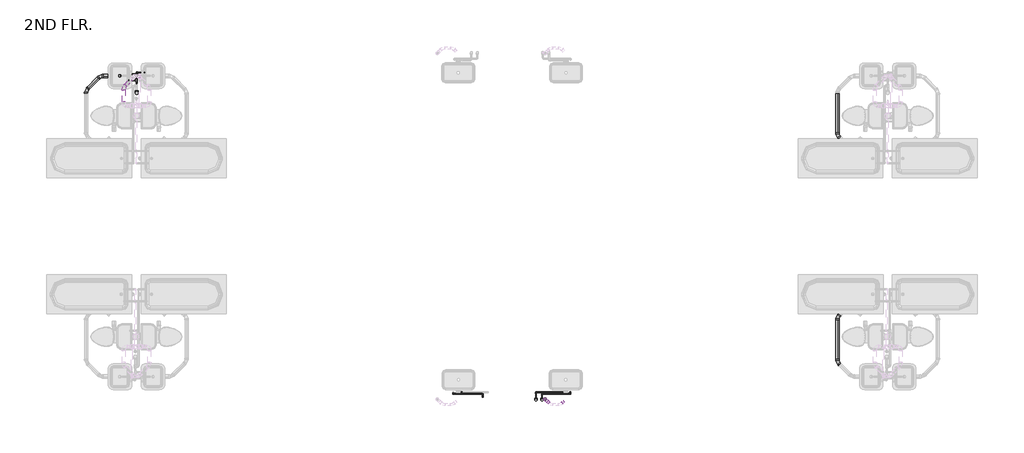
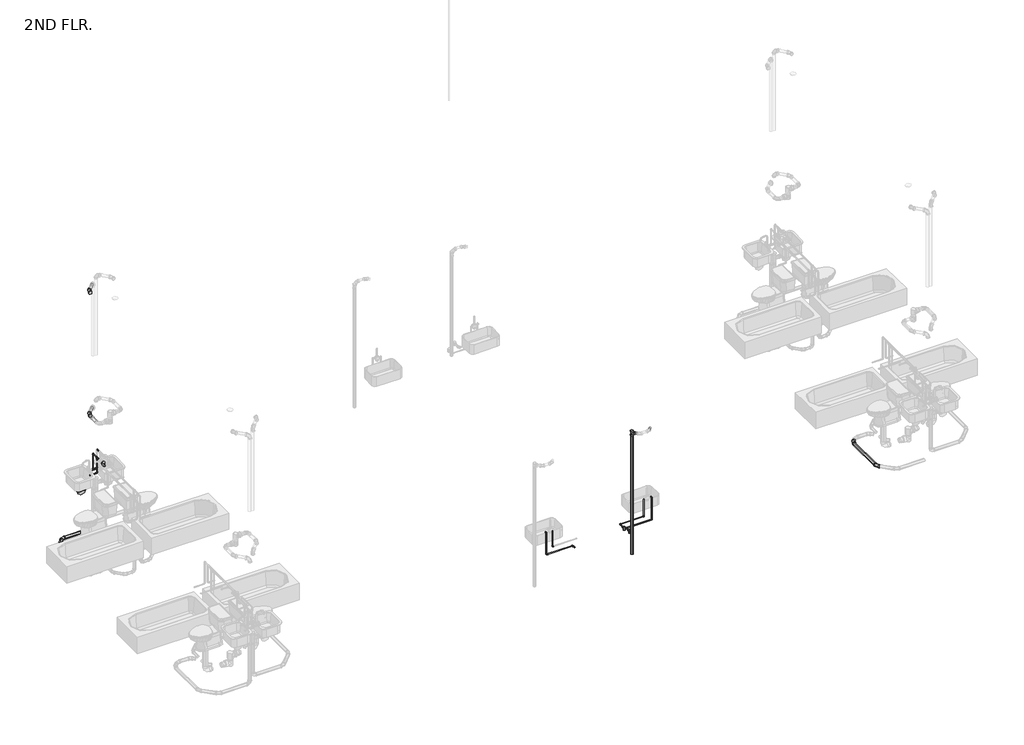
# One storey, part 7 of 15: 32 pipe segments, 29 pipe fittings.
"""IFC4 building model written with IfcOpenShell, lengths in millimetres."""

from ifc_helpers import new_model, si_unit, point, frame, frame_2d, origin, place, context, project, spatial, circle_curve, trimmed, segment, composite_curve, outline, extrude, transform, mapped, element, save
from components import bend_pvc_sch_40_dwv_standard_f2f5988a, bend_pvc_sch_40_dwv_standard_f64d1520, pipe_elbow_copper_k_aad62f2d, pipe_elbow_copper_k_4cfe590c, pipe_elbow_copper_k_69a8f9be, pipe_tee_copper_k_36278b8a, pipe_tee_copper_k_ee363fbf, pipe_tee_copper_k_60c871d1, pipe_transition_copper_k_859ff352, pipe_transition_copper_k_4b29cc47, standard_8c31f35f, tee_sanitary_pvc_sch_40_dwv_standard_31acfb72

model = new_model("IFC4")

# Units and contexts
model_context = context("Model", 3, world=origin())
ifc_project = project(units=[si_unit("LENGTHUNIT", "METRE", prefix="MILLI")], contexts=[model_context])

# Site, building, storey
site = spatial("IfcSite", under=ifc_project)
building = spatial("IfcBuilding", under=site)
storey = spatial("IfcBuildingStorey", under=building, Name="2ND FLR.", Elevation=2844.8)

# Pipe fittings
placement = place(None, origin())
bend_pvc_sch_40_dwv_standard_shape = bend_pvc_sch_40_dwv_standard_f2f5988a(model_context)
element("IfcPipeFitting", 1, ObjectType="Bend - PVC - Sch 40 - DWV : Standard", at=placement, inside=storey, context=model_context, shape_type="MappedRepresentation", body=[
    mapped(bend_pvc_sch_40_dwv_standard_shape, transform((15951.6578096, 2815.0447905, 2303.4969926), x_axis=(0.0, -1.0, 0.0), y_axis=(0.9999999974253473, 0.0, -7.175866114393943e-05), z_axis=(7.175866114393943e-05, 0.0, 0.9999999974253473))),
])
element("IfcPipeFitting", 2, ObjectType="Bend - PVC - Sch 40 - DWV : Standard", at=placement, inside=storey, context=model_context, shape_type="MappedRepresentation", body=[
    mapped(bend_pvc_sch_40_dwv_standard_shape, transform((15951.6578096, 3711.4802538, 2303.4969926), x_axis=(-0.707106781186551, -0.707106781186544, 0.0), y_axis=(0.707106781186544, -0.707106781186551, 0.0), z_axis=(0.0, 0.0, 1.0))),
])
bend_pvc_sch_40_dwv_standard_2_shape = bend_pvc_sch_40_dwv_standard_f64d1520(model_context)
element("IfcPipeFitting", 3, ObjectType="Bend - PVC - Sch 40 - DWV : Standard", at=placement, inside=storey, context=model_context, shape_type="MappedRepresentation", body=[
    mapped(bend_pvc_sch_40_dwv_standard_2_shape, transform((1407.2763671, 8465.2975466, 2291.20951), x_axis=(0.707106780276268, 0.7071067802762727, 5.0741035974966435e-05), y_axis=(-0.7071067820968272, 0.7071067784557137, 5.074103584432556e-05), z_axis=(0.0, -7.17586611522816e-05, 0.9999999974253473))),
])
element("IfcPipeFitting", 4, ObjectType="Bend - PVC - Sch 40 - DWV : Standard", at=placement, inside=storey, context=model_context, shape_type="MappedRepresentation", body=[
    mapped(bend_pvc_sch_40_dwv_standard_2_shape, transform((1127.6578381, 8185.6790175, 2291.1952447), x_axis=(0.0, 1.0, 0.0), y_axis=(-0.9999999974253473, 0.0, 7.175866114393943e-05), z_axis=(7.175866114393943e-05, 0.0, 0.9999999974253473))),
])
element("IfcPipeFitting", 5, ObjectType="Bend - PVC - Sch 40 - DWV : Standard", at=placement, inside=storey, context=model_context, shape_type="MappedRepresentation", body=[
    mapped(bend_pvc_sch_40_dwv_standard_2_shape, transform((1864.3084875, 8244.2717925, 7975.5957104), x_axis=(0.0, 0.9999999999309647, -1.1750347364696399e-05), y_axis=(-0.9999999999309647, 1.3807066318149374e-10, 1.175034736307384e-05), z_axis=(1.1750347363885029e-05, 1.175034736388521e-05, 0.9999999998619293))),
])
element("IfcPipeFitting", 6, ObjectType="Bend - PVC - Sch 40 - DWV : Standard", at=placement, inside=storey, context=model_context, shape_type="MappedRepresentation", body=[
    mapped(bend_pvc_sch_40_dwv_standard_2_shape, transform((1864.3084875, 8244.2717925, 5130.7957104), x_axis=(0.0, 0.9999999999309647, -1.1750347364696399e-05), y_axis=(-0.9999999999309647, 1.3807066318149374e-10, 1.175034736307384e-05), z_axis=(1.1750347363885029e-05, 1.175034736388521e-05, 0.9999999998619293))),
])
element("IfcPipeFitting", 7, ObjectType="Bend - PVC - Sch 40 - DWV : Standard", at=placement, inside=storey, context=model_context, shape_type="MappedRepresentation", body=[
    mapped(bend_pvc_sch_40_dwv_standard_2_shape, transform((15951.6578381, 7289.5723223, 2291.1952447), x_axis=(-0.707106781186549, 0.707106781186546, 0.0), y_axis=(-0.707106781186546, -0.707106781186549, 0.0), z_axis=(0.0, 0.0, 1.0))),
])
pipe_elbow_copper_k_shape = pipe_elbow_copper_k_aad62f2d(model_context)
element("IfcPipeFitting", 8, ObjectType="Pipe Elbow : Copper- K", at=placement, inside=storey, context=model_context, shape_type="MappedRepresentation", body=[
    mapped(pipe_elbow_copper_k_shape, transform((2121.4834875, 8536.03262, 3962.4), x_axis=(0.0, 1.0, 0.0), y_axis=(0.0, 0.0, -1.0), z_axis=(-1.0, 0.0, 0.0))),
])
element("IfcPipeFitting", 9, ObjectType="Pipe Elbow : Copper- K", at=placement, inside=storey, context=model_context, shape_type="MappedRepresentation", body=[
    mapped(pipe_elbow_copper_k_shape, transform((2121.4834875, 8536.03262, 3606.8), x_axis=(0.0, 0.0, -1.0), y_axis=(1.0, 0.0, 0.0), z_axis=(0.0, -1.0, 0.0))),
])
element("IfcPipeFitting", 10, ObjectType="Pipe Elbow : Copper- K", at=placement, inside=storey, context=model_context, shape_type="MappedRepresentation", body=[
    mapped(pipe_elbow_copper_k_shape, transform((2121.4834875, 8383.3740436, 3606.8), x_axis=(0.0, 0.0, -1.0), y_axis=(-1.0, 0.0, 0.0), z_axis=(0.0, 1.0, 0.0))),
])
element("IfcPipeFitting", 11, ObjectType="Pipe Elbow : Copper- K", at=placement, inside=storey, context=model_context, shape_type="MappedRepresentation", body=[
    mapped(pipe_elbow_copper_k_shape, transform((8954.4391516, 2195.725865, 3281.6601562), x_axis=(0.0, 0.9999994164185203, 0.0010803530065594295), y_axis=(-1.0, 0.0, 0.0), z_axis=(0.0, -0.0010803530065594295, 0.9999994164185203))),
])
element("IfcPipeFitting", 12, ObjectType="Pipe Elbow : Copper- K", at=placement, inside=storey, context=model_context, shape_type="MappedRepresentation", body=[
    mapped(pipe_elbow_copper_k_shape, transform((8370.2391516, 2195.725865, 3281.6601562), x_axis=(-1.0, 0.0, 0.0), y_axis=(0.0, 0.0, 1.0), z_axis=(0.0, 1.0, 0.0))),
])
element("IfcPipeFitting", 13, ObjectType="Pipe Elbow : Copper- K", at=placement, inside=storey, context=model_context, shape_type="MappedRepresentation", body=[
    mapped(pipe_elbow_copper_k_shape, transform((8370.2391516, 2195.725865, 3789.6601562), x_axis=(0.0, 0.0, 1.0), y_axis=(0.0, 1.0, 0.0), z_axis=(-1.0, 0.0, 0.0))),
])
element("IfcPipeFitting", 14, ObjectType="Pipe Elbow : Copper- K", at=placement, inside=storey, context=model_context, shape_type="MappedRepresentation", body=[
    mapped(pipe_elbow_copper_k_shape, transform((10121.3413377, 2195.725865, 3281.6601562), x_axis=(-1.0, 0.0, 0.0), y_axis=(0.0, -1.0, 0.0), z_axis=(0.0, 0.0, 1.0))),
])
element("IfcPipeFitting", 15, ObjectType="Pipe Elbow : Copper- K", at=placement, inside=storey, context=model_context, shape_type="MappedRepresentation", body=[
    mapped(pipe_elbow_copper_k_shape, transform((10681.01717, 2195.725865, 3281.6601562), x_axis=(0.0, 0.0, -1.0), y_axis=(-1.0, 0.0, 0.0), z_axis=(0.0, 1.0, 0.0))),
])
element("IfcPipeFitting", 16, ObjectType="Pipe Elbow : Copper- K", at=placement, inside=storey, context=model_context, shape_type="MappedRepresentation", body=[
    mapped(pipe_elbow_copper_k_shape, transform((10002.1891516, 2227.8137881, 3393.47591), x_axis=(-0.9999999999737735, 0.0, -7.242448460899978e-06), y_axis=(0.0, -1.0000000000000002, 0.0), z_axis=(-7.242448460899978e-06, 0.0, 0.9999999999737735))),
])
pipe_elbow_copper_k_2_shape = pipe_elbow_copper_k_4cfe590c(model_context)
element("IfcPipeFitting", 17, ObjectType="Pipe Elbow : Copper- K", at=placement, inside=storey, context=model_context, shape_type="MappedRepresentation", body=[
    mapped(pipe_elbow_copper_k_2_shape, transform((8527.4913377, 2227.8137881, 3393.4796875), x_axis=(-0.9999999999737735, 0.0, 7.242448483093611e-06), y_axis=(7.242448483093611e-06, 0.0, 0.9999999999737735), z_axis=(0.0, 1.0, 0.0))),
])
element("IfcPipeFitting", 18, ObjectType="Pipe Elbow : Copper- K", at=placement, inside=storey, context=model_context, shape_type="MappedRepresentation", body=[
    mapped(pipe_elbow_copper_k_2_shape, transform((10523.7649839, 2227.8137881, 3393.4796875), x_axis=(0.0, 0.0, -1.0), y_axis=(-1.0, 0.0, 0.0), z_axis=(0.0, 1.0, 0.0))),
])
pipe_elbow_copper_k_3_shape = pipe_elbow_copper_k_69a8f9be(model_context)
element("IfcPipeFitting", 19, ObjectType="Pipe Elbow : Copper- K", at=placement, inside=storey, context=model_context, shape_type="MappedRepresentation", body=[
    mapped(pipe_elbow_copper_k_3_shape, transform((10681.01717, 2195.725865, 3789.6601562), x_axis=(0.0, 0.0, 1.0), y_axis=(0.0, -1.0, 0.0), z_axis=(1.0, 0.0, 0.0))),
])
pipe_tee_copper_k_shape = pipe_tee_copper_k_36278b8a(model_context)
element("IfcPipeFitting", 20, ObjectType="Pipe Tee : Copper- K", at=placement, inside=storey, context=model_context, shape_type="MappedRepresentation", body=[
    mapped(pipe_tee_copper_k_shape, transform((2121.4834875, 8129.4757881, 3962.4), x_axis=(0.0, 0.0, 1.0), y_axis=(0.0, -1.0, 0.0), z_axis=(1.0, 0.0, 0.0))),
])
pipe_tee_copper_k_2_shape = pipe_tee_copper_k_ee363fbf(model_context)
element("IfcPipeFitting", 21, ObjectType="Pipe Tee : Copper- K", at=placement, inside=storey, context=model_context, shape_type="MappedRepresentation", body=[
    mapped(pipe_tee_copper_k_2_shape, transform((2121.4834875, 8383.3740436, 3962.4), x_axis=(0.0, -1.0, 0.0), y_axis=(0.0, 0.0, 1.0), z_axis=(-1.0, 0.0, 0.0))),
])
pipe_tee_copper_k_3_shape = pipe_tee_copper_k_60c871d1(model_context)
element("IfcPipeFitting", 22, ObjectType="Pipe Tee : Copper- K", at=placement, inside=storey, context=model_context, shape_type="MappedRepresentation", body=[
    mapped(pipe_tee_copper_k_3_shape, transform((10121.3413377, 2071.7561808, 3281.6601562), x_axis=(0.0, 0.0, 1.0), y_axis=(0.0, -1.0, 0.0), z_axis=(1.0, 0.0, 0.0))),
])
element("IfcPipeFitting", 23, ObjectType="Pipe Tee : Copper- K", at=placement, inside=storey, context=model_context, shape_type="MappedRepresentation", body=[
    mapped(pipe_tee_copper_k_3_shape, transform((10002.1891516, 2071.7561808, 3393.47591), x_axis=(0.0, 0.0, 1.0), y_axis=(0.0, -1.0, 0.0), z_axis=(1.0, 0.0, 0.0))),
])
pipe_transition_copper_k_shape = pipe_transition_copper_k_859ff352(model_context)
element("IfcPipeFitting", 24, ObjectType="Pipe Transition : Copper- K", at=placement, inside=storey, context=model_context, shape_type="MappedRepresentation", body=[
    mapped(pipe_transition_copper_k_shape, transform((2121.4834875, 8383.3740436, 3935.4125), x_axis=(0.0, 0.0, -1.0), y_axis=(0.0, -1.0, 0.0), z_axis=(-1.0, 0.0, 0.0))),
])
element("IfcPipeFitting", 25, ObjectType="Pipe Transition : Copper- K", at=placement, inside=storey, context=model_context, shape_type="MappedRepresentation", body=[
    mapped(pipe_transition_copper_k_shape, transform((2121.4834875, 8410.3615436, 3962.4), x_axis=(0.0, 1.0, 0.0), y_axis=(-1.0, 0.0, 0.0), z_axis=(0.0, 0.0, 1.0))),
])
pipe_transition_copper_k_2_shape = pipe_transition_copper_k_4b29cc47(model_context)
element("IfcPipeFitting", 26, ObjectType="Pipe Transition : Copper- K", at=placement, inside=storey, context=model_context, shape_type="MappedRepresentation", body=[
    mapped(pipe_transition_copper_k_2_shape, transform((10121.3413377, 2105.0936808, 3281.6601562), x_axis=(0.0, 1.0, 0.0), y_axis=(-1.0, 0.0, 0.0), z_axis=(0.0, 0.0, 1.0))),
])
element("IfcPipeFitting", 27, ObjectType="Pipe Transition : Copper- K", at=placement, inside=storey, context=model_context, shape_type="MappedRepresentation", body=[
    mapped(pipe_transition_copper_k_2_shape, transform((10002.1891516, 2105.0936808, 3393.47591), x_axis=(0.0, 1.0, 0.0), y_axis=(-1.0, 0.0, 0.0), z_axis=(0.0, 0.0, 1.0))),
])
standard_shape = standard_8c31f35f(model_context)
element("IfcPipeFitting", 28, ObjectType="GES P TRAP PVC Sch 40 - DWV : Standard", at=placement, inside=storey, context=model_context, shape_type="MappedRepresentation", body=[
    mapped(standard_shape, transform((1765.3699643, 8465.2710421, 3322.6721683), x_axis=(0.0, 0.0, -1.0), y_axis=(-1.0, 0.0, 0.0), z_axis=(0.0, 1.0, 0.0))),
])
tee_sanitary_pvc_sch_40_dwv_standard_shape = tee_sanitary_pvc_sch_40_dwv_standard_31acfb72(model_context)
element("IfcPipeFitting", 29, ObjectType="Tee Sanitary - PVC - Sch 40 - DWV : Standard", at=placement, inside=storey, context=model_context, shape_type="MappedRepresentation", body=[
    mapped(tee_sanitary_pvc_sch_40_dwv_standard_shape, transform((10182.4361988, 2088.8641446, 5532.1998234), x_axis=(0.0, 0.0, 1.0), y_axis=(0.7098586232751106, -0.7043441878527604, 0.0), z_axis=(0.7043441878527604, 0.7098586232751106, 0.0))),
])

# Pipe segments
element("IfcPipeSegment", 30, ObjectType="Copper", at=placement, inside=storey, context=model_context, shape_type="SweptSolid", body=[
    extrude(outline(composite_curve([segment(trimmed(circle_curve(frame_2d((3962.4, 2121.4834875)), 7.9375), [point((3962.4, 2129.4209875))], [point((3970.3375, 2121.4834875))], False, "CARTESIAN"), True, "CONTINUOUS"), segment(trimmed(circle_curve(frame_2d((3962.4, 2121.4834875)), 7.9375), [point((3970.3375, 2121.4834875))], [point((3962.4, 2113.5459875))], False, "CARTESIAN"), True, "CONTINUOUS"), segment(trimmed(circle_curve(frame_2d((3962.4, 2121.4834875)), 7.9375), [point((3962.4, 2113.5459875))], [point((3954.4625, 2121.4834875))], False, "CARTESIAN"), True, "CONTINUOUS"), segment(trimmed(circle_curve(frame_2d((3962.4, 2121.4834875)), 7.9375), [point((3954.4625, 2121.4834875))], [point((3962.4, 2129.4209875))], False, "CARTESIAN"), True, "CONTINUOUS")], self_intersect=False)), frame((0.0, 8415.9177936, 0.0), z_axis=(0.0, 1.0, 0.0), x_axis=(0.0, 0.0, 1.0)), (0.0, 0.0, 1.0), 102.6523264),
])
element("IfcPipeSegment", 31, ObjectType="Copper", at=placement, inside=storey, context=model_context, shape_type="SweptSolid", body=[
    extrude(outline(composite_curve([segment(trimmed(circle_curve(frame_2d((8536.03262, 3606.8)), 7.9375), [point((8528.09512, 3606.8))], [point((8536.03262, 3614.7375))], False, "CARTESIAN"), True, "CONTINUOUS"), segment(trimmed(circle_curve(frame_2d((8536.03262, 3606.8)), 7.9375), [point((8536.03262, 3614.7375))], [point((8543.97012, 3606.8))], False, "CARTESIAN"), True, "CONTINUOUS"), segment(trimmed(circle_curve(frame_2d((8536.03262, 3606.8)), 7.9375), [point((8543.97012, 3606.8))], [point((8536.03262, 3598.8625))], False, "CARTESIAN"), True, "CONTINUOUS"), segment(trimmed(circle_curve(frame_2d((8536.03262, 3606.8)), 7.9375), [point((8536.03262, 3598.8625))], [point((8528.09512, 3606.8))], False, "CARTESIAN"), True, "CONTINUOUS")], self_intersect=False)), frame((2138.9459875, 0.0, 0.0), z_axis=(1.0, 0.0, 0.0), x_axis=(0.0, 1.0, 0.0)), (0.0, 0.0, 1.0), 141.2875),
])
element("IfcPipeSegment", 32, ObjectType="Copper", at=placement, inside=storey, context=model_context, shape_type="SweptSolid", body=[
    extrude(outline(composite_curve([segment(trimmed(circle_curve(frame_2d((2121.4834875, 8536.03262)), 7.9375), [point((2129.4209875, 8536.03262))], [point((2121.4834875, 8528.09512))], False, "CARTESIAN"), True, "CONTINUOUS"), segment(trimmed(circle_curve(frame_2d((2121.4834875, 8536.03262)), 7.9375), [point((2121.4834875, 8528.09512))], [point((2113.5459875, 8536.03262))], False, "CARTESIAN"), True, "CONTINUOUS"), segment(trimmed(circle_curve(frame_2d((2121.4834875, 8536.03262)), 7.9375), [point((2113.5459875, 8536.03262))], [point((2121.4834875, 8543.97012))], False, "CARTESIAN"), True, "CONTINUOUS"), segment(trimmed(circle_curve(frame_2d((2121.4834875, 8536.03262)), 7.9375), [point((2121.4834875, 8543.97012))], [point((2129.4209875, 8536.03262))], False, "CARTESIAN"), True, "CONTINUOUS")], self_intersect=False)), frame((0.0, 0.0, 3624.2625), z_axis=(0.0, 0.0, 1.0), x_axis=(1.0, 0.0, 0.0)), (0.0, 0.0, 1.0), 320.675),
])
element("IfcPipeSegment", 33, ObjectType="Copper", at=placement, inside=storey, context=model_context, shape_type="SweptSolid", body=[
    extrude(outline(composite_curve([segment(trimmed(circle_curve(frame_2d((8383.3740436, 3606.8)), 7.9375), [point((8391.3115436, 3606.8))], [point((8383.3740436, 3598.8625))], False, "CARTESIAN"), True, "CONTINUOUS"), segment(trimmed(circle_curve(frame_2d((8383.3740436, 3606.8)), 7.9375), [point((8383.3740436, 3598.8625))], [point((8375.4365436, 3606.8))], False, "CARTESIAN"), True, "CONTINUOUS"), segment(trimmed(circle_curve(frame_2d((8383.3740436, 3606.8)), 7.9375), [point((8375.4365436, 3606.8))], [point((8383.3740436, 3614.7375))], False, "CARTESIAN"), True, "CONTINUOUS"), segment(trimmed(circle_curve(frame_2d((8383.3740436, 3606.8)), 7.9375), [point((8383.3740436, 3614.7375))], [point((8391.3115436, 3606.8))], False, "CARTESIAN"), True, "CONTINUOUS")], self_intersect=False)), frame((1967.4959875, 0.0, 0.0), z_axis=(1.0, 0.0, 0.0), x_axis=(0.0, 1.0, 0.0)), (0.0, 0.0, 1.0), 136.525),
])
element("IfcPipeSegment", 34, ObjectType="Copper", at=placement, inside=storey, context=model_context, shape_type="SweptSolid", body=[
    extrude(outline(composite_curve([segment(trimmed(circle_curve(frame_2d((2121.4834875, 8383.3740436)), 7.9375), [point((2129.4209875, 8383.3740436))], [point((2121.4834875, 8375.4365436))], False, "CARTESIAN"), True, "CONTINUOUS"), segment(trimmed(circle_curve(frame_2d((2121.4834875, 8383.3740436)), 7.9375), [point((2121.4834875, 8375.4365436))], [point((2113.5459875, 8383.3740436))], False, "CARTESIAN"), True, "CONTINUOUS"), segment(trimmed(circle_curve(frame_2d((2121.4834875, 8383.3740436)), 7.9375), [point((2113.5459875, 8383.3740436))], [point((2121.4834875, 8391.3115436))], False, "CARTESIAN"), True, "CONTINUOUS"), segment(trimmed(circle_curve(frame_2d((2121.4834875, 8383.3740436)), 7.9375), [point((2121.4834875, 8391.3115436))], [point((2129.4209875, 8383.3740436))], False, "CARTESIAN"), True, "CONTINUOUS")], self_intersect=False)), frame((0.0, 0.0, 3624.2625), z_axis=(0.0, 0.0, 1.0), x_axis=(1.0, 0.0, 0.0)), (0.0, 0.0, 1.0), 305.59375),
])
element("IfcPipeSegment", 35, ObjectType="Copper", at=placement, inside=storey, context=model_context, shape_type="SweptSolid", body=[
    extrude(outline(composite_curve([segment(trimmed(circle_curve(frame_2d((3962.4, 2121.4834875)), 11.1125), [point((3962.4, 2132.5959875))], [point((3973.5125, 2121.4834875))], False, "CARTESIAN"), True, "CONTINUOUS"), segment(trimmed(circle_curve(frame_2d((3962.4, 2121.4834875)), 11.1125), [point((3973.5125, 2121.4834875))], [point((3962.4, 2110.3709875))], False, "CARTESIAN"), True, "CONTINUOUS"), segment(trimmed(circle_curve(frame_2d((3962.4, 2121.4834875)), 11.1125), [point((3962.4, 2110.3709875))], [point((3951.2875, 2121.4834875))], False, "CARTESIAN"), True, "CONTINUOUS"), segment(trimmed(circle_curve(frame_2d((3962.4, 2121.4834875)), 11.1125), [point((3951.2875, 2121.4834875))], [point((3962.4, 2132.5959875))], False, "CARTESIAN"), True, "CONTINUOUS")], self_intersect=False)), frame((0.0, 8308.4155408, 0.0), z_axis=(0.0, 1.0, 0.0), x_axis=(0.0, 0.0, 1.0)), (0.0, 0.0, 1.0), 47.9710027),
])
element("IfcPipeSegment", 36, ObjectType="Copper", at=placement, inside=storey, context=model_context, shape_type="SweptSolid", body=[
    extrude(outline(composite_curve([segment(trimmed(circle_curve(frame_2d((4064.0, 2186.5709875)), 7.9375), [point((4064.0, 2194.5084875))], [point((4071.9375, 2186.5709875))], False, "CARTESIAN"), True, "CONTINUOUS"), segment(trimmed(circle_curve(frame_2d((4064.0, 2186.5709875)), 7.9375), [point((4071.9375, 2186.5709875))], [point((4064.0, 2178.6334875))], False, "CARTESIAN"), True, "CONTINUOUS"), segment(trimmed(circle_curve(frame_2d((4064.0, 2186.5709875)), 7.9375), [point((4064.0, 2178.6334875))], [point((4056.0625, 2186.5709875))], False, "CARTESIAN"), True, "CONTINUOUS"), segment(trimmed(circle_curve(frame_2d((4064.0, 2186.5709875)), 7.9375), [point((4056.0625, 2186.5709875))], [point((4064.0, 2194.5084875))], False, "CARTESIAN"), True, "CONTINUOUS")], self_intersect=False)), frame((0.0, 8415.9177936, 0.0), z_axis=(0.0, 1.0, 0.0), x_axis=(0.0, 0.0, 1.0)), (0.0, 0.0, 1.0), 67.7165373),
])
element("IfcPipeSegment", 37, ObjectType="Copper", at=placement, inside=storey, context=model_context, shape_type="SweptSolid", body=[
    extrude(outline(composite_curve([segment(trimmed(circle_curve(frame_2d((8501.0968309, 3606.8)), 7.9375), [point((8509.0343309, 3606.8))], [point((8501.0968309, 3598.8625))], False, "CARTESIAN"), True, "CONTINUOUS"), segment(trimmed(circle_curve(frame_2d((8501.0968309, 3606.8)), 7.9375), [point((8501.0968309, 3598.8625))], [point((8493.1593309, 3606.8))], False, "CARTESIAN"), True, "CONTINUOUS"), segment(trimmed(circle_curve(frame_2d((8501.0968309, 3606.8)), 7.9375), [point((8493.1593309, 3606.8))], [point((8501.0968309, 3614.7375))], False, "CARTESIAN"), True, "CONTINUOUS"), segment(trimmed(circle_curve(frame_2d((8501.0968309, 3606.8)), 7.9375), [point((8501.0968309, 3614.7375))], [point((8509.0343309, 3606.8))], False, "CARTESIAN"), True, "CONTINUOUS")], self_intersect=False)), frame((2002.4209875, 0.0, 0.0), z_axis=(1.0, 0.0, 0.0), x_axis=(0.0, 1.0, 0.0)), (0.0, 0.0, 1.0), 166.6875),
])
element("IfcPipeSegment", 38, ObjectType="Copper", at=placement, inside=storey, context=model_context, shape_type="SweptSolid", body=[
    extrude(outline(composite_curve([segment(trimmed(circle_curve(frame_2d((8527.4913377, 2227.8137881)), 7.9375), [point((8519.5538377, 2227.8137881))], [point((8527.4913377, 2235.7512881))], False, "CARTESIAN"), True, "CONTINUOUS"), segment(trimmed(circle_curve(frame_2d((8527.4913377, 2227.8137881)), 7.9375), [point((8527.4913377, 2235.7512881))], [point((8535.4288377, 2227.8137881))], False, "CARTESIAN"), True, "CONTINUOUS"), segment(trimmed(circle_curve(frame_2d((8527.4913377, 2227.8137881)), 7.9375), [point((8535.4288377, 2227.8137881))], [point((8527.4913377, 2219.8762881))], False, "CARTESIAN"), True, "CONTINUOUS"), segment(trimmed(circle_curve(frame_2d((8527.4913377, 2227.8137881)), 7.9375), [point((8527.4913377, 2219.8762881))], [point((8519.5538377, 2227.8137881))], False, "CARTESIAN"), True, "CONTINUOUS")], self_intersect=False)), frame((0.0, 0.0, 3410.942061), z_axis=(0.0, 0.0, 1.0), x_axis=(1.0, 0.0, 0.0)), (0.0, 0.0, 1.0), 378.7180952),
])
element("IfcPipeSegment", 39, ObjectType="Copper", at=placement, inside=storey, context=model_context, shape_type="SweptSolid", body=[
    extrude(outline(composite_curve([segment(trimmed(circle_curve(frame_2d((0.0, 7.9375)), 7.9375), [point((0.0, 15.875))], [point((7.9374999, 7.9375))], False, "CARTESIAN"), True, "CONTINUOUS"), segment(trimmed(circle_curve(frame_2d((0.0, 7.9375)), 7.9375), [point((7.9374999, 7.9375))], [point((0.0, 0.0))], False, "CARTESIAN"), True, "CONTINUOUS"), segment(trimmed(circle_curve(frame_2d((0.0, 7.9375)), 7.9375), [point((0.0, 0.0))], [point((-7.9375, 7.9375))], False, "CARTESIAN"), True, "CONTINUOUS"), segment(trimmed(circle_curve(frame_2d((0.0, 7.9375)), 7.9375), [point((-7.9375, 7.9375))], [point((0.0, 15.875))], False, "CARTESIAN"), True, "CONTINUOUS")], self_intersect=False)), frame((8946.5016516, 2128.1124308, 3281.6214111), z_axis=(0.0, 0.999999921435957, 0.00039639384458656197), x_axis=(0.0, -0.00039639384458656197, 0.999999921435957)), (0.0, 0.0, 1.0), 50.1509484),
])
element("IfcPipeSegment", 40, ObjectType="Copper", at=placement, inside=storey, context=model_context, shape_type="SweptSolid", body=[
    extrude(outline(composite_curve([segment(trimmed(circle_curve(frame_2d((2195.725865, 3281.6601562)), 7.9375), [point((2203.663365, 3281.6601562))], [point((2195.725865, 3273.7226562))], False, "CARTESIAN"), True, "CONTINUOUS"), segment(trimmed(circle_curve(frame_2d((2195.725865, 3281.6601562)), 7.9375), [point((2195.725865, 3273.7226562))], [point((2187.788365, 3281.6601562))], False, "CARTESIAN"), True, "CONTINUOUS"), segment(trimmed(circle_curve(frame_2d((2195.725865, 3281.6601562)), 7.9375), [point((2187.788365, 3281.6601562))], [point((2195.725865, 3289.5976562))], False, "CARTESIAN"), True, "CONTINUOUS"), segment(trimmed(circle_curve(frame_2d((2195.725865, 3281.6601562)), 7.9375), [point((2195.725865, 3289.5976562))], [point((2203.663365, 3281.6601562))], False, "CARTESIAN"), True, "CONTINUOUS")], self_intersect=False)), frame((8387.7016516, 0.0, 0.0), z_axis=(1.0, 0.0, 0.0), x_axis=(0.0, 1.0, 0.0)), (0.0, 0.0, 1.0), 549.275),
])
element("IfcPipeSegment", 41, ObjectType="Copper", at=placement, inside=storey, context=model_context, shape_type="SweptSolid", body=[
    extrude(outline(composite_curve([segment(trimmed(circle_curve(frame_2d((8370.2391516, 2195.725865)), 7.9375), [point((8362.3016516, 2195.725865))], [point((8370.2391516, 2203.663365))], False, "CARTESIAN"), True, "CONTINUOUS"), segment(trimmed(circle_curve(frame_2d((8370.2391516, 2195.725865)), 7.9375), [point((8370.2391516, 2203.663365))], [point((8378.1766516, 2195.725865))], False, "CARTESIAN"), True, "CONTINUOUS"), segment(trimmed(circle_curve(frame_2d((8370.2391516, 2195.725865)), 7.9375), [point((8378.1766516, 2195.725865))], [point((8370.2391516, 2187.788365))], False, "CARTESIAN"), True, "CONTINUOUS"), segment(trimmed(circle_curve(frame_2d((8370.2391516, 2195.725865)), 7.9375), [point((8370.2391516, 2187.788365))], [point((8362.3016516, 2195.725865))], False, "CARTESIAN"), True, "CONTINUOUS")], self_intersect=False)), frame((0.0, 0.0, 3299.1226562), z_axis=(0.0, 0.0, 1.0), x_axis=(1.0, 0.0, 0.0)), (0.0, 0.0, 1.0), 473.075),
])
element("IfcPipeSegment", 42, ObjectType="Copper", at=placement, inside=storey, context=model_context, shape_type="SweptSolid", body=[
    extrude(outline(composite_curve([segment(trimmed(circle_curve(frame_2d((3789.6601562, 10681.01717)), 7.9375), [point((3789.6601562, 10688.95467))], [point((3797.5976562, 10681.01717))], False, "CARTESIAN"), True, "CONTINUOUS"), segment(trimmed(circle_curve(frame_2d((3789.6601562, 10681.01717)), 7.9375), [point((3797.5976562, 10681.01717))], [point((3789.6601562, 10673.07967))], False, "CARTESIAN"), True, "CONTINUOUS"), segment(trimmed(circle_curve(frame_2d((3789.6601562, 10681.01717)), 7.9375), [point((3789.6601562, 10673.07967))], [point((3781.7226562, 10681.01717))], False, "CARTESIAN"), True, "CONTINUOUS"), segment(trimmed(circle_curve(frame_2d((3789.6601562, 10681.01717)), 7.9375), [point((3781.7226562, 10681.01717))], [point((3789.6601562, 10688.95467))], False, "CARTESIAN"), True, "CONTINUOUS")], self_intersect=False)), frame((0.0, 2213.188365, 0.0), z_axis=(0.0, 1.0, 0.0), x_axis=(0.0, 0.0, 1.0)), (0.0, 0.0, 1.0), 17.3178158),
])
element("IfcPipeSegment", 43, ObjectType="Copper", at=placement, inside=storey, context=model_context, shape_type="SweptSolid", body=[
    extrude(outline(composite_curve([segment(trimmed(circle_curve(frame_2d((0.0, 7.9375)), 7.9375), [point((-7.9375, 7.9375))], [point((0.0, 15.875))], False, "CARTESIAN"), True, "CONTINUOUS"), segment(trimmed(circle_curve(frame_2d((0.0, 7.9375)), 7.9375), [point((0.0, 15.875))], [point((7.9375, 7.9375))], False, "CARTESIAN"), True, "CONTINUOUS"), segment(trimmed(circle_curve(frame_2d((0.0, 7.9375)), 7.9375), [point((7.9375, 7.9375))], [point((0.0, 0.0))], False, "CARTESIAN"), True, "CONTINUOUS"), segment(trimmed(circle_curve(frame_2d((0.0, 7.9375)), 7.9375), [point((0.0, 0.0))], [point((-7.9375, 7.9375))], False, "CARTESIAN"), True, "CONTINUOUS")], self_intersect=False)), frame((10019.6517091, 2227.8137881, 3385.5385365), z_axis=(0.9999999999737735, 0.0, 7.242448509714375e-06), x_axis=(0.0, 1.0, 0.0)), (0.0, 0.0, 1.0), 486.6509587),
])
element("IfcPipeSegment", 44, ObjectType="Copper", at=placement, inside=storey, context=model_context, shape_type="SweptSolid", body=[
    extrude(outline(composite_curve([segment(trimmed(circle_curve(frame_2d((10523.7649839, 2227.8137881)), 7.9375), [point((10515.8274839, 2227.8137881))], [point((10523.7649839, 2235.7512881))], False, "CARTESIAN"), True, "CONTINUOUS"), segment(trimmed(circle_curve(frame_2d((10523.7649839, 2227.8137881)), 7.9375), [point((10523.7649839, 2235.7512881))], [point((10531.7024839, 2227.8137881))], False, "CARTESIAN"), True, "CONTINUOUS"), segment(trimmed(circle_curve(frame_2d((10523.7649839, 2227.8137881)), 7.9375), [point((10531.7024839, 2227.8137881))], [point((10523.7649839, 2219.8762881))], False, "CARTESIAN"), True, "CONTINUOUS"), segment(trimmed(circle_curve(frame_2d((10523.7649839, 2227.8137881)), 7.9375), [point((10523.7649839, 2219.8762881))], [point((10515.8274839, 2227.8137881))], False, "CARTESIAN"), True, "CONTINUOUS")], self_intersect=False)), frame((0.0, 0.0, 3410.942061), z_axis=(0.0, 0.0, 1.0), x_axis=(1.0, 0.0, 0.0)), (0.0, 0.0, 1.0), 378.7180952),
])
element("IfcPipeSegment", 45, ObjectType="Copper", at=placement, inside=storey, context=model_context, shape_type="SweptSolid", body=[
    extrude(outline(composite_curve([segment(trimmed(circle_curve(frame_2d((2195.725865, 3281.6601562)), 7.9375), [point((2187.788365, 3281.6601562))], [point((2195.725865, 3289.5976562))], False, "CARTESIAN"), True, "CONTINUOUS"), segment(trimmed(circle_curve(frame_2d((2195.725865, 3281.6601562)), 7.9375), [point((2195.725865, 3289.5976562))], [point((2203.663365, 3281.6601562))], False, "CARTESIAN"), True, "CONTINUOUS"), segment(trimmed(circle_curve(frame_2d((2195.725865, 3281.6601562)), 7.9375), [point((2203.663365, 3281.6601562))], [point((2195.725865, 3273.7226562))], False, "CARTESIAN"), True, "CONTINUOUS"), segment(trimmed(circle_curve(frame_2d((2195.725865, 3281.6601562)), 7.9375), [point((2195.725865, 3273.7226562))], [point((2187.788365, 3281.6601562))], False, "CARTESIAN"), True, "CONTINUOUS")], self_intersect=False)), frame((10138.8038377, 0.0, 0.0), z_axis=(1.0, 0.0, 0.0), x_axis=(0.0, 1.0, 0.0)), (0.0, 0.0, 1.0), 524.7508323),
])
element("IfcPipeSegment", 46, ObjectType="Copper", at=placement, inside=storey, context=model_context, shape_type="SweptSolid", body=[
    extrude(outline(composite_curve([segment(trimmed(circle_curve(frame_2d((10681.01717, 2195.725865)), 7.9375), [point((10673.07967, 2195.725865))], [point((10681.01717, 2203.663365))], False, "CARTESIAN"), True, "CONTINUOUS"), segment(trimmed(circle_curve(frame_2d((10681.01717, 2195.725865)), 7.9375), [point((10681.01717, 2203.663365))], [point((10688.95467, 2195.725865))], False, "CARTESIAN"), True, "CONTINUOUS"), segment(trimmed(circle_curve(frame_2d((10681.01717, 2195.725865)), 7.9375), [point((10688.95467, 2195.725865))], [point((10681.01717, 2187.788365))], False, "CARTESIAN"), True, "CONTINUOUS"), segment(trimmed(circle_curve(frame_2d((10681.01717, 2195.725865)), 7.9375), [point((10681.01717, 2187.788365))], [point((10673.07967, 2195.725865))], False, "CARTESIAN"), True, "CONTINUOUS")], self_intersect=False)), frame((0.0, 0.0, 3299.1226562), z_axis=(0.0, 0.0, 1.0), x_axis=(1.0, 0.0, 0.0)), (0.0, 0.0, 1.0), 473.075),
])
element("IfcPipeSegment", 47, ObjectType="Copper", at=placement, inside=storey, context=model_context, shape_type="SweptSolid", body=[
    extrude(outline(composite_curve([segment(trimmed(circle_curve(frame_2d((3281.6601562, 10121.3413377)), 7.9375), [point((3281.6601562, 10129.2788377))], [point((3289.5976562, 10121.3413377))], False, "CARTESIAN"), True, "CONTINUOUS"), segment(trimmed(circle_curve(frame_2d((3281.6601562, 10121.3413377)), 7.9375), [point((3289.5976562, 10121.3413377))], [point((3281.6601562, 10113.4038377))], False, "CARTESIAN"), True, "CONTINUOUS"), segment(trimmed(circle_curve(frame_2d((3281.6601562, 10121.3413377)), 7.9375), [point((3281.6601562, 10113.4038377))], [point((3273.7226562, 10121.3413377))], False, "CARTESIAN"), True, "CONTINUOUS"), segment(trimmed(circle_curve(frame_2d((3281.6601562, 10121.3413377)), 7.9375), [point((3273.7226562, 10121.3413377))], [point((3281.6601562, 10129.2788377))], False, "CARTESIAN"), True, "CONTINUOUS")], self_intersect=False)), frame((0.0, 2113.8249308, 0.0), z_axis=(0.0, 1.0, 0.0), x_axis=(0.0, 0.0, 1.0)), (0.0, 0.0, 1.0), 64.4384342),
])
element("IfcPipeSegment", 48, ObjectType="Copper", at=placement, inside=storey, context=model_context, shape_type="SweptSolid", body=[
    extrude(outline(composite_curve([segment(trimmed(circle_curve(frame_2d((3393.47591, 10002.1891516)), 7.9375), [point((3393.47591, 10010.1266516))], [point((3401.41341, 10002.1891516))], False, "CARTESIAN"), True, "CONTINUOUS"), segment(trimmed(circle_curve(frame_2d((3393.47591, 10002.1891516)), 7.9375), [point((3401.41341, 10002.1891516))], [point((3393.47591, 9994.2516516))], False, "CARTESIAN"), True, "CONTINUOUS"), segment(trimmed(circle_curve(frame_2d((3393.47591, 10002.1891516)), 7.9375), [point((3393.47591, 9994.2516516))], [point((3385.53841, 10002.1891516))], False, "CARTESIAN"), True, "CONTINUOUS"), segment(trimmed(circle_curve(frame_2d((3393.47591, 10002.1891516)), 7.9375), [point((3385.53841, 10002.1891516))], [point((3393.47591, 10010.1266516))], False, "CARTESIAN"), True, "CONTINUOUS")], self_intersect=False)), frame((0.0, 2113.8249308, 0.0), z_axis=(0.0, 1.0, 0.0), x_axis=(0.0, 0.0, 1.0)), (0.0, 0.0, 1.0), 96.5263572),
])
element("IfcPipeSegment", 49, ObjectType="PVC - SAN/STORM", at=placement, inside=storey, context=model_context, shape_type="SweptSolid", body=[
    extrude(outline(composite_curve([segment(trimmed(circle_curve(frame_2d((0.0, 24.1300001)), 24.13), [point((-24.1293456, 24.3077102))], [point((0.1777101, 48.2593457))], False, "CARTESIAN"), True, "CONTINUOUS"), segment(trimmed(circle_curve(frame_2d((0.0, 24.1300001)), 24.13), [point((0.1777101, 48.2593457))], [point((24.1293456, 23.95229))], False, "CARTESIAN"), True, "CONTINUOUS"), segment(trimmed(circle_curve(frame_2d((0.0, 24.1300001)), 24.13), [point((24.1293456, 23.95229))], [point((-0.1777101, 0.0006545))], False, "CARTESIAN"), True, "CONTINUOUS"), segment(trimmed(circle_curve(frame_2d((0.0, 24.1300001)), 24.13), [point((-0.1777101, 0.0006545))], [point((-24.1293456, 24.3077102))], False, "CARTESIAN"), True, "CONTINUOUS")], self_intersect=False)), frame((10552.1413086, 2045.6780541, 5503.7537279), z_axis=(-0.7070684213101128, -0.7071067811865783, 0.007365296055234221), x_axis=(0.707145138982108, -0.7070300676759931, 0.007364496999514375)), (0.0, 0.0, 1.0), 44.4784246),
])
element("IfcPipeSegment", 50, ObjectType="PVC - SAN/STORM", at=placement, inside=storey, context=model_context, shape_type="SweptSolid", body=[
    extrude(outline(composite_curve([segment(trimmed(circle_curve(frame_2d((0.0, 24.13)), 24.13), [point((24.128658, 24.3844918))], [point((0.2544918, 0.001342))], False, "CARTESIAN"), True, "CONTINUOUS"), segment(trimmed(circle_curve(frame_2d((0.0, 24.13)), 24.13), [point((0.2544918, 0.001342))], [point((-24.1286579, 23.8755083))], False, "CARTESIAN"), True, "CONTINUOUS"), segment(trimmed(circle_curve(frame_2d((0.0, 24.13)), 24.13), [point((-24.1286579, 23.8755083))], [point((-0.2544917, 48.258658))], False, "CARTESIAN"), True, "CONTINUOUS"), segment(trimmed(circle_curve(frame_2d((0.0, 24.13)), 24.13), [point((-0.2544917, 48.258658))], [point((24.128658, 24.3844918))], False, "CARTESIAN"), True, "CONTINUOUS")], self_intersect=False)), frame((10257.5342698, 2013.9909518, 5555.2199391), z_axis=(-0.7098197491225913, 0.7043056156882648, 0.010465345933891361), x_axis=(0.7043833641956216, 0.7097414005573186, 0.010546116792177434)), (0.0, 0.0, 1.0), 43.8989906),
])
element("IfcPipeSegment", 51, ObjectType="PVC - SAN/STORM", at=placement, inside=storey, context=model_context, shape_type="SweptSolid", body=[
    extrude(outline(composite_curve([segment(trimmed(circle_curve(frame_2d((10182.4361988, 2088.8641446)), 24.13), [point((10206.5661988, 2088.8641446))], [point((10182.4361988, 2064.7341446))], False, "CARTESIAN"), True, "CONTINUOUS"), segment(trimmed(circle_curve(frame_2d((10182.4361988, 2088.8641446)), 24.13), [point((10182.4361988, 2064.7341446))], [point((10158.3061988, 2088.8641446))], False, "CARTESIAN"), True, "CONTINUOUS"), segment(trimmed(circle_curve(frame_2d((10182.4361988, 2088.8641446)), 24.13), [point((10158.3061988, 2088.8641446))], [point((10182.4361988, 2112.9941446))], False, "CARTESIAN"), True, "CONTINUOUS"), segment(trimmed(circle_curve(frame_2d((10182.4361988, 2088.8641446)), 24.13), [point((10182.4361988, 2112.9941446))], [point((10206.5661988, 2088.8641446))], False, "CARTESIAN"), True, "CONTINUOUS")], self_intersect=False)), frame((0.0, 0.0, 2732.6657899), z_axis=(0.0, 0.0, 1.0), x_axis=(1.0, 0.0, 0.0)), (0.0, 0.0, 1.0), 2737.6342335),
])
element("IfcPipeSegment", 52, ObjectType="PVC - SAN/STORM", at=placement, inside=storey, context=model_context, shape_type="SweptSolid", body=[
    extrude(outline(composite_curve([segment(trimmed(circle_curve(frame_2d((8465.2710421, 3322.6721683)), 30.1625), [point((8435.1085421, 3322.6721683))], [point((8465.2710421, 3352.8346683))], False, "CARTESIAN"), True, "CONTINUOUS"), segment(trimmed(circle_curve(frame_2d((8465.2710421, 3322.6721683)), 30.1625), [point((8465.2710421, 3352.8346683))], [point((8495.4335421, 3322.6721683))], False, "CARTESIAN"), True, "CONTINUOUS"), segment(trimmed(circle_curve(frame_2d((8465.2710421, 3322.6721683)), 30.1625), [point((8495.4335421, 3322.6721683))], [point((8465.2710421, 3292.5096683))], False, "CARTESIAN"), True, "CONTINUOUS"), segment(trimmed(circle_curve(frame_2d((8465.2710421, 3322.6721683)), 30.1625), [point((8465.2710421, 3292.5096683))], [point((8435.1085421, 3322.6721683))], False, "CARTESIAN"), True, "CONTINUOUS")], self_intersect=False)), frame((1957.4574643, 0.0, 0.0), z_axis=(1.0, 0.0, 0.0), x_axis=(0.0, 1.0, 0.0)), (0.0, 0.0, 1.0), 14.4765036),
])
element("IfcPipeSegment", 53, ObjectType="PVC - SAN/STORM", at=placement, inside=storey, context=model_context, shape_type="SweptSolid", body=[
    extrude(outline(composite_curve([segment(trimmed(circle_curve(frame_2d((1765.3699643, 8465.2710421)), 30.1625), [point((1735.2074643, 8465.2710421))], [point((1765.3699643, 8495.4335421))], False, "CARTESIAN"), True, "CONTINUOUS"), segment(trimmed(circle_curve(frame_2d((1765.3699643, 8465.2710421)), 30.1625), [point((1765.3699643, 8495.4335421))], [point((1795.5324643, 8465.2710421))], False, "CARTESIAN"), True, "CONTINUOUS"), segment(trimmed(circle_curve(frame_2d((1765.3699643, 8465.2710421)), 30.1625), [point((1795.5324643, 8465.2710421))], [point((1765.3699643, 8435.1085421))], False, "CARTESIAN"), True, "CONTINUOUS"), segment(trimmed(circle_curve(frame_2d((1765.3699643, 8465.2710421)), 30.1625), [point((1765.3699643, 8435.1085421))], [point((1735.2074643, 8465.2710421))], False, "CARTESIAN"), True, "CONTINUOUS")], self_intersect=False)), frame((0.0, 0.0, 3275.0471683), z_axis=(0.0, 0.0, 1.0), x_axis=(1.0, 0.0, 0.0)), (0.0, 0.0, 1.0), 143.9539175),
])
element("IfcPipeSegment", 54, ObjectType="PVC - SAN/STORM", at=placement, inside=storey, context=model_context, shape_type="SweptSolid", body=[
    extrude(outline(composite_curve([segment(trimmed(circle_curve(frame_2d((8465.2975466, 2291.20951)), 30.1625), [point((8495.4600466, 2291.20951))], [point((8465.2975466, 2261.04701))], False, "CARTESIAN"), True, "CONTINUOUS"), segment(trimmed(circle_curve(frame_2d((8465.2975466, 2291.20951)), 30.1625), [point((8465.2975466, 2261.04701))], [point((8435.1350466, 2291.20951))], False, "CARTESIAN"), True, "CONTINUOUS"), segment(trimmed(circle_curve(frame_2d((8465.2975466, 2291.20951)), 30.1625), [point((8435.1350466, 2291.20951))], [point((8465.2975466, 2321.37201))], False, "CARTESIAN"), True, "CONTINUOUS"), segment(trimmed(circle_curve(frame_2d((8465.2975466, 2291.20951)), 30.1625), [point((8465.2975466, 2321.37201))], [point((8495.4600466, 2291.20951))], False, "CARTESIAN"), True, "CONTINUOUS")], self_intersect=False)), frame((1464.4263671, 0.0, 0.0), z_axis=(1.0, 0.0, 0.0), x_axis=(0.0, 1.0, 0.0)), (0.0, 0.0, 1.0), 542.9556821),
])
element("IfcPipeSegment", 55, ObjectType="PVC - SAN/STORM", at=placement, inside=storey, context=model_context, shape_type="SweptSolid", body=[
    extrude(outline(composite_curve([segment(trimmed(circle_curve(frame_2d((0.0, -30.1625)), 30.1625), [point((-30.1625, -30.1609695))], [point((0.0015305, -1e-07))], False, "CARTESIAN"), True, "CONTINUOUS"), segment(trimmed(circle_curve(frame_2d((0.0, -30.1625)), 30.1625), [point((0.0015305, -1e-07))], [point((30.1625, -30.1640305))], False, "CARTESIAN"), True, "CONTINUOUS"), segment(trimmed(circle_curve(frame_2d((0.0, -30.1625)), 30.1625), [point((30.1625, -30.1640305))], [point((-0.0015305, -60.325))], False, "CARTESIAN"), True, "CONTINUOUS"), segment(trimmed(circle_curve(frame_2d((0.0, -30.1625)), 30.1625), [point((-0.0015305, -60.325))], [point((-30.1625, -30.1609695))], False, "CARTESIAN"), True, "CONTINUOUS")], self_intersect=False)), frame((1168.0689906, 8226.0923345, 2261.0298449), z_axis=(0.7071067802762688, 0.7071067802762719, 5.074103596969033e-05), x_axis=(0.7071067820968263, -0.7071067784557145, -5.074103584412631e-05)), (0.0, 0.0, 1.0), 281.1403165),
])
element("IfcPipeSegment", 56, ObjectType="PVC - SAN/STORM", at=placement, inside=storey, context=model_context, shape_type="SweptSolid", body=[
    extrude(outline(composite_curve([segment(trimmed(circle_curve(frame_2d((5130.796382, 1864.3084875)), 30.1625), [point((5130.796382, 1834.1459875))], [point((5100.633882, 1864.3084875))], False, "CARTESIAN"), True, "CONTINUOUS"), segment(trimmed(circle_curve(frame_2d((5130.796382, 1864.3084875)), 30.1625), [point((5100.633882, 1864.3084875))], [point((5130.796382, 1894.4709875))], False, "CARTESIAN"), True, "CONTINUOUS"), segment(trimmed(circle_curve(frame_2d((5130.796382, 1864.3084875)), 30.1625), [point((5130.796382, 1894.4709875))], [point((5160.958882, 1864.3084875))], False, "CARTESIAN"), True, "CONTINUOUS"), segment(trimmed(circle_curve(frame_2d((5130.796382, 1864.3084875)), 30.1625), [point((5160.958882, 1864.3084875))], [point((5130.796382, 1834.1459875))], False, "CARTESIAN"), True, "CONTINUOUS")], self_intersect=False)), frame((0.0, 7954.6889644, 0.0), z_axis=(0.0, 1.0, 0.0), x_axis=(0.0, 0.0, 1.0)), (0.0, 0.0, 1.0), 232.4328281),
])
element("IfcPipeSegment", 57, ObjectType="PVC - SAN/STORM", at=placement, inside=storey, context=model_context, shape_type="SweptSolid", body=[
    extrude(outline(composite_curve([segment(trimmed(circle_curve(frame_2d((0.0, -30.1625)), 30.1625), [point((-30.1624999, -30.1625))], [point((0.0, 0.0))], False, "CARTESIAN"), True, "CONTINUOUS"), segment(trimmed(circle_curve(frame_2d((0.0, -30.1625)), 30.1625), [point((0.0, 0.0))], [point((30.1625, -30.1625))], False, "CARTESIAN"), True, "CONTINUOUS"), segment(trimmed(circle_curve(frame_2d((0.0, -30.1625)), 30.1625), [point((30.1625, -30.1625))], [point((0.0, -60.325))], False, "CARTESIAN"), True, "CONTINUOUS"), segment(trimmed(circle_curve(frame_2d((0.0, -30.1625)), 30.1625), [point((0.0, -60.325))], [point((-30.1624999, -30.1625))], False, "CARTESIAN"), True, "CONTINUOUS")], self_intersect=False)), frame((1904.71964, 8284.6829451, 7945.4322608), z_axis=(0.7071067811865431, 0.707106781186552, 0.0), x_axis=(0.707106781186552, -0.7071067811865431, 0.0)), (0.0, 0.0, 1.0), 177.5012027),
])
element("IfcPipeSegment", 58, ObjectType="PVC - SAN/STORM", at=placement, inside=storey, context=model_context, shape_type="SweptSolid", body=[
    extrude(outline(composite_curve([segment(trimmed(circle_curve(frame_2d((0.0, -30.1625)), 30.1625), [point((-30.1624999, -30.1625))], [point((0.0, 0.0))], False, "CARTESIAN"), True, "CONTINUOUS"), segment(trimmed(circle_curve(frame_2d((0.0, -30.1625)), 30.1625), [point((0.0, 0.0))], [point((30.1625, -30.1625))], False, "CARTESIAN"), True, "CONTINUOUS"), segment(trimmed(circle_curve(frame_2d((0.0, -30.1625)), 30.1625), [point((30.1625, -30.1625))], [point((0.0, -60.325))], False, "CARTESIAN"), True, "CONTINUOUS"), segment(trimmed(circle_curve(frame_2d((0.0, -30.1625)), 30.1625), [point((0.0, -60.325))], [point((-30.1624999, -30.1625))], False, "CARTESIAN"), True, "CONTINUOUS")], self_intersect=False)), frame((1904.71964, 8284.6829451, 5100.6322608), z_axis=(0.7071067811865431, 0.707106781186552, 0.0), x_axis=(0.707106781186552, -0.7071067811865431, 0.0)), (0.0, 0.0, 1.0), 177.5012027),
])
element("IfcPipeSegment", 59, ObjectType="PVC - SAN/STORM", at=placement, inside=storey, context=model_context, shape_type="SweptSolid", body=[
    extrude(outline(composite_curve([segment(trimmed(circle_curve(frame_2d((5130.796382, 1864.3084875)), 30.1625), [point((5130.796382, 1834.1459875))], [point((5100.633882, 1864.3084875))], False, "CARTESIAN"), True, "CONTINUOUS"), segment(trimmed(circle_curve(frame_2d((5130.796382, 1864.3084875)), 30.1625), [point((5100.633882, 1864.3084875))], [point((5130.796382, 1894.4709875))], False, "CARTESIAN"), True, "CONTINUOUS"), segment(trimmed(circle_curve(frame_2d((5130.796382, 1864.3084875)), 30.1625), [point((5130.796382, 1894.4709875))], [point((5160.958882, 1864.3084875))], False, "CARTESIAN"), True, "CONTINUOUS"), segment(trimmed(circle_curve(frame_2d((5130.796382, 1864.3084875)), 30.1625), [point((5160.958882, 1864.3084875))], [point((5130.796382, 1834.1459875))], False, "CARTESIAN"), True, "CONTINUOUS")], self_intersect=False)), frame((0.0, 7954.6889644, 0.0), z_axis=(0.0, 1.0, 0.0), x_axis=(0.0, 0.0, 1.0)), (0.0, 0.0, 1.0), 232.4328281),
])
element("IfcPipeSegment", 60, ObjectType="PVC - SAN/STORM", at=placement, inside=storey, context=model_context, shape_type="SweptSolid", body=[
    extrude(outline(composite_curve([segment(trimmed(circle_curve(frame_2d((2291.1952447, 15951.6578381)), 30.1625), [point((2291.1952447, 15921.4953381))], [point((2261.0327447, 15951.6578381))], False, "CARTESIAN"), True, "CONTINUOUS"), segment(trimmed(circle_curve(frame_2d((2291.1952447, 15951.6578381)), 30.1625), [point((2261.0327447, 15951.6578381))], [point((2291.1952447, 15981.8203381))], False, "CARTESIAN"), True, "CONTINUOUS"), segment(trimmed(circle_curve(frame_2d((2291.1952447, 15951.6578381)), 30.1625), [point((2291.1952447, 15981.8203381))], [point((2321.3577447, 15951.6578381))], False, "CARTESIAN"), True, "CONTINUOUS"), segment(trimmed(circle_curve(frame_2d((2291.1952447, 15951.6578381)), 30.1625), [point((2321.3577447, 15951.6578381))], [point((2291.1952447, 15921.4953381))], False, "CARTESIAN"), True, "CONTINUOUS")], self_intersect=False)), frame((0.0, 7346.7223223, 0.0), z_axis=(0.0, 1.0, 0.0), x_axis=(0.0, 0.0, 1.0)), (0.0, 0.0, 1.0), 781.8066952),
])
element("IfcPipeSegment", 61, ObjectType="PVC - SAN/STORM", at=placement, inside=storey, context=model_context, shape_type="SweptSolid", body=[
    extrude(outline(composite_curve([segment(trimmed(circle_curve(frame_2d((2303.4969926, 15951.6578096)), 30.1625), [point((2303.4969926, 15981.8203096))], [point((2333.6594926, 15951.6578096))], False, "CARTESIAN"), True, "CONTINUOUS"), segment(trimmed(circle_curve(frame_2d((2303.4969926, 15951.6578096)), 30.1625), [point((2333.6594926, 15951.6578096))], [point((2303.4969926, 15921.4953096))], False, "CARTESIAN"), True, "CONTINUOUS"), segment(trimmed(circle_curve(frame_2d((2303.4969926, 15951.6578096)), 30.1625), [point((2303.4969926, 15921.4953096))], [point((2273.3344926, 15951.6578096))], False, "CARTESIAN"), True, "CONTINUOUS"), segment(trimmed(circle_curve(frame_2d((2303.4969926, 15951.6578096)), 30.1625), [point((2273.3344926, 15951.6578096))], [point((2303.4969926, 15981.8203096))], False, "CARTESIAN"), True, "CONTINUOUS")], self_intersect=False)), frame((0.0, 2872.1947905, 0.0), z_axis=(0.0, 1.0, 0.0), x_axis=(0.0, 0.0, 1.0)), (0.0, 0.0, 1.0), 782.1354633),
])

save(model, "model.ifc")
